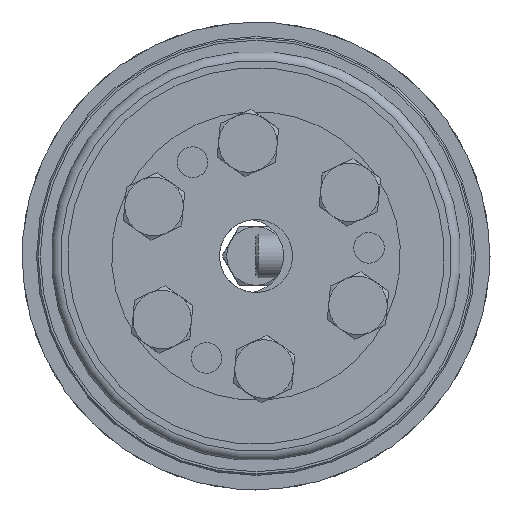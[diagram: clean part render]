
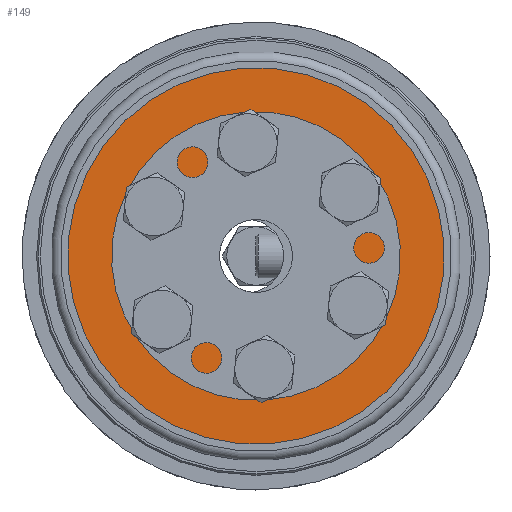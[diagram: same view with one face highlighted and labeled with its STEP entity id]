
A CAD part, left-side view. The second image highlights one B-rep face of the part: STEP entity #149.
In plain terms, the highlighted planar face has unit normal (-1, 0, 0).
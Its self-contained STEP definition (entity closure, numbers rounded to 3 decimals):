
#149 = ADVANCED_FACE( 'NONE', ( #246, #247, #248, #249, #250, #251, #252, #253 ), #254, .F. );
#246 = FACE_OUTER_BOUND( '', #384, .T. );
#247 = FACE_BOUND( '', #385, .T. );
#248 = FACE_BOUND( '', #386, .T. );
#249 = FACE_BOUND( '', #387, .T. );
#250 = FACE_BOUND( '', #388, .T. );
#251 = FACE_BOUND( '', #389, .T. );
#252 = FACE_BOUND( '', #390, .T. );
#253 = FACE_BOUND( '', #391, .T. );
#254 = PLANE( '', #392 );
#384 = EDGE_LOOP( '', ( #670 ) );
#385 = EDGE_LOOP( '', ( #671 ) );
#386 = EDGE_LOOP( '', ( #672 ) );
#387 = EDGE_LOOP( '', ( #673 ) );
#388 = EDGE_LOOP( '', ( #674 ) );
#389 = EDGE_LOOP( '', ( #675 ) );
#390 = EDGE_LOOP( '', ( #676 ) );
#391 = EDGE_LOOP( '', ( #677 ) );
#392 = AXIS2_PLACEMENT_3D( '', #678, #679, #680 );
#670 = ORIENTED_EDGE( '', *, *, #1238, .T. );
#671 = ORIENTED_EDGE( '', *, *, #1239, .F. );
#672 = ORIENTED_EDGE( '', *, *, #1240, .F. );
#673 = ORIENTED_EDGE( '', *, *, #1232, .F. );
#674 = ORIENTED_EDGE( '', *, *, #1241, .F. );
#675 = ORIENTED_EDGE( '', *, *, #1242, .F. );
#676 = ORIENTED_EDGE( '', *, *, #1243, .F. );
#677 = ORIENTED_EDGE( '', *, *, #1244, .F. );
#678 = CARTESIAN_POINT( '', ( 0., 12.2, 0. ) );
#679 = DIRECTION( '', ( 1., 0., 0. ) );
#680 = DIRECTION( '', ( 0., 1., 0. ) );
#1232 = EDGE_CURVE( 'NONE', #1748, #1748, #1749, .T. );
#1238 = EDGE_CURVE( 'NONE', #1758, #1758, #1759, .T. );
#1239 = EDGE_CURVE( 'NONE', #1760, #1760, #1761, .T. );
#1240 = EDGE_CURVE( 'NONE', #1762, #1762, #1763, .T. );
#1241 = EDGE_CURVE( 'NONE', #1764, #1764, #1765, .T. );
#1242 = EDGE_CURVE( 'NONE', #1766, #1766, #1767, .T. );
#1243 = EDGE_CURVE( 'NONE', #1768, #1768, #1769, .T. );
#1244 = EDGE_CURVE( 'NONE', #1770, #1770, #1771, .T. );
#1748 = VERTEX_POINT( '', #2777 );
#1749 = CIRCLE( '', #2778, 2.1 );
#1758 = VERTEX_POINT( '', #2787 );
#1759 = CIRCLE( '', #2788, 25.75 );
#1760 = VERTEX_POINT( '', #2789 );
#1761 = CIRCLE( '', #2790, 2.1 );
#1762 = VERTEX_POINT( '', #2791 );
#1763 = CIRCLE( '', #2792, 2.1 );
#1764 = VERTEX_POINT( '', #2793 );
#1765 = CIRCLE( '', #2794, 2.1 );
#1766 = VERTEX_POINT( '', #2795 );
#1767 = CIRCLE( '', #2796, 12.2 );
#1768 = VERTEX_POINT( '', #2797 );
#1769 = CIRCLE( '', #2798, 2.1 );
#1770 = VERTEX_POINT( '', #2799 );
#1771 = CIRCLE( '', #2800, 2.1 );
#2777 = CARTESIAN_POINT( '', ( 0., 7.75, -11.323 ) );
#2778 = AXIS2_PLACEMENT_3D( '', #3067, #3068, #3069 );
#2787 = CARTESIAN_POINT( '', ( 0., 0., 25.75 ) );
#2788 = AXIS2_PLACEMENT_3D( '', #3079, #3080, #3081 );
#2789 = CARTESIAN_POINT( '', ( 0., -7.75, 15.523 ) );
#2790 = AXIS2_PLACEMENT_3D( '', #3082, #3083, #3084 );
#2791 = CARTESIAN_POINT( '', ( 0., -7.75, -11.323 ) );
#2792 = AXIS2_PLACEMENT_3D( '', #3085, #3086, #3087 );
#2793 = CARTESIAN_POINT( '', ( 0., 15.5, 2.1 ) );
#2794 = AXIS2_PLACEMENT_3D( '', #3088, #3089, #3090 );
#2795 = CARTESIAN_POINT( '', ( 0., 0., 12.2 ) );
#2796 = AXIS2_PLACEMENT_3D( '', #3091, #3092, #3093 );
#2797 = CARTESIAN_POINT( '', ( 0., -15.5, 2.1 ) );
#2798 = AXIS2_PLACEMENT_3D( '', #3094, #3095, #3096 );
#2799 = CARTESIAN_POINT( '', ( 0., 7.75, 15.523 ) );
#2800 = AXIS2_PLACEMENT_3D( '', #3097, #3098, #3099 );
#3067 = CARTESIAN_POINT( '', ( 0., 7.75, -13.423 ) );
#3068 = DIRECTION( '', ( -1., 0., 0. ) );
#3069 = DIRECTION( '', ( 0., 0., 1. ) );
#3079 = CARTESIAN_POINT( '', ( 0., 0., 0. ) );
#3080 = DIRECTION( '', ( -1., 0., 0. ) );
#3081 = DIRECTION( '', ( 0., 0., 1. ) );
#3082 = CARTESIAN_POINT( '', ( 0., -7.75, 13.423 ) );
#3083 = DIRECTION( '', ( -1., 0., 0. ) );
#3084 = DIRECTION( '', ( 0., 0., 1. ) );
#3085 = CARTESIAN_POINT( '', ( 0., -7.75, -13.423 ) );
#3086 = DIRECTION( '', ( -1., 0., 0. ) );
#3087 = DIRECTION( '', ( 0., 0., 1. ) );
#3088 = CARTESIAN_POINT( '', ( 0., 15.5, 0. ) );
#3089 = DIRECTION( '', ( -1., 0., 0. ) );
#3090 = DIRECTION( '', ( 0., 0., 1. ) );
#3091 = CARTESIAN_POINT( '', ( 0., 0., 0. ) );
#3092 = DIRECTION( '', ( -1., 0., 0. ) );
#3093 = DIRECTION( '', ( 0., 0., 1. ) );
#3094 = CARTESIAN_POINT( '', ( 0., -15.5, 0. ) );
#3095 = DIRECTION( '', ( -1., 0., 0. ) );
#3096 = DIRECTION( '', ( 0., 0., 1. ) );
#3097 = CARTESIAN_POINT( '', ( 0., 7.75, 13.423 ) );
#3098 = DIRECTION( '', ( -1., 0., 0. ) );
#3099 = DIRECTION( '', ( 0., 0., 1. ) );
